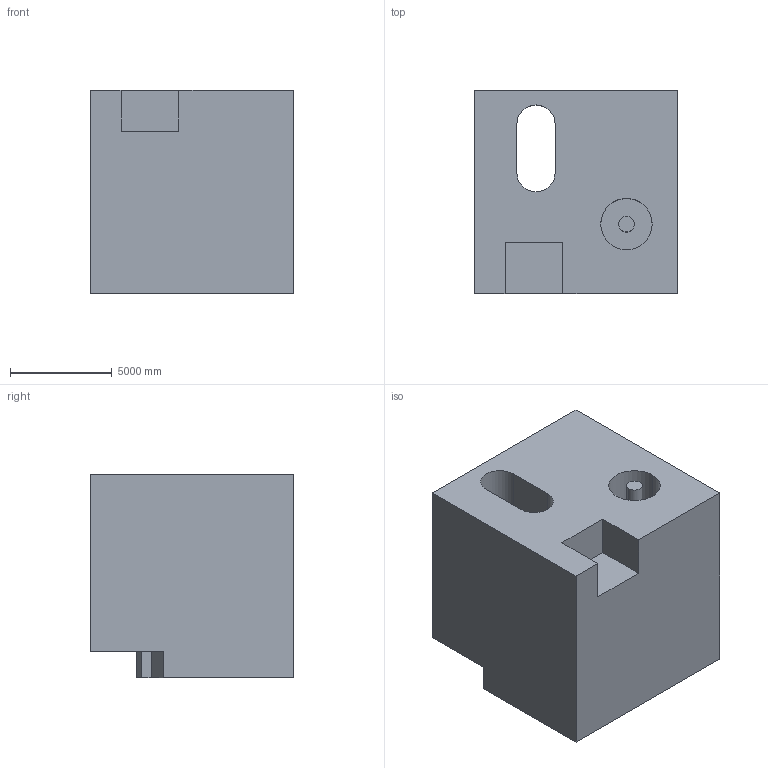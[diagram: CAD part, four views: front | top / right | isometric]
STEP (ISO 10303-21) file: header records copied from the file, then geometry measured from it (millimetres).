
FILE_DESCRIPTION (( 'STEP AP203' ), '1' );
FILE_NAME ('473.STEP', '2022-07-29T11:25:22', ( 'user' ), ( '' ), 'SwSTEP 2.0', 'SolidWorks 2021', '' );
FILE_SCHEMA (( 'CONFIG_CONTROL_DESIGN' ));
Length unit declared in the file: centimetre
Products named in the file (1): 473
Bounding box: 10000 x 10000 x 10000 mm (x, y, z)
Volume: 841365978533.5 mm3; surface area: 757681073.8 mm2
Topology: 1 solids, 1 shells, 27 faces, 72 edges, 48 vertices
Faces by surface type: plane 21, cylinder 6
Entity records: 919 total; most frequent: CARTESIAN_POINT 148, ORIENTED_EDGE 144, DIRECTION 140, EDGE_CURVE 72, LINE 60, VECTOR 60, VERTEX_POINT 48, AXIS2_PLACEMENT_3D 40
